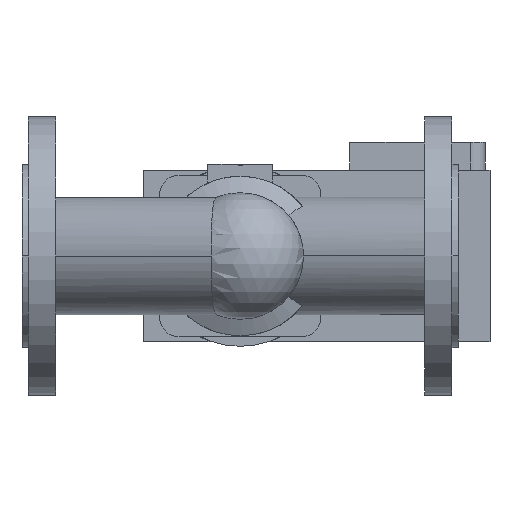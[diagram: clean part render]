
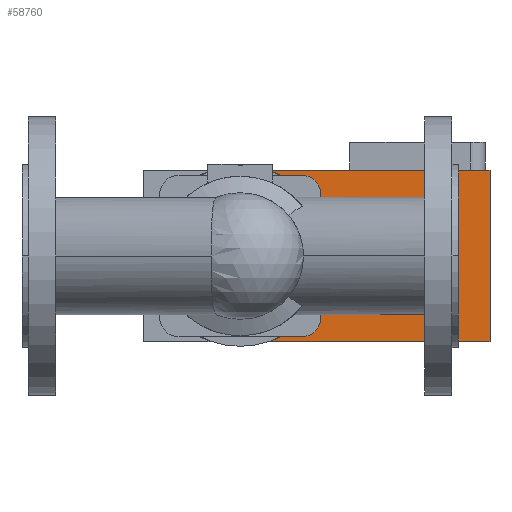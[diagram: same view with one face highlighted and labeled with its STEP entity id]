
A CAD part, front view. The second image highlights one B-rep face of the part: STEP entity #58760.
In plain terms, the highlighted planar face has unit normal (0, -1, 0).
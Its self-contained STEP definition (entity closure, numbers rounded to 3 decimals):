
#55230=CARTESIAN_POINT('',(-28.5,228.,32.));
#55240=DIRECTION('',(0.,1.,-0.));
#55250=DIRECTION('',(-1.,0.,0.));
#55260=AXIS2_PLACEMENT_3D('',#55230,#55240,#55250);
#55270=PLANE('',#55260);
#55280=CARTESIAN_POINT('',(-64.,228.,-25.));
#55290=DIRECTION('',(1.,0.,0.));
#55300=VECTOR('',#55290,1.);
#55310=LINE('',#55280,#55300);
#55460=CARTESIAN_POINT('',(-64.,228.,89.));
#55470=DIRECTION('',(1.,0.,0.));
#55480=VECTOR('',#55470,1.);
#55490=LINE('',#55460,#55480);
#55540=CARTESIAN_POINT('',(0.,228.,32.));
#55550=DIRECTION('',(0.,-1.,0.));
#55560=DIRECTION('',(-1.,0.,0.));
#55570=AXIS2_PLACEMENT_3D('',#55540,#55550,#55560);
#55580=CIRCLE('',#55570,60.);
#55770=CARTESIAN_POINT('',(18.735,228.,-25.));
#55780=VERTEX_POINT('',#55770);
#55830=CARTESIAN_POINT('',(166.,228.,-25.));
#55840=VERTEX_POINT('',#55830);
#55850=EDGE_CURVE('',#55780,#55840,#55310,.T.);
#57150=CARTESIAN_POINT('',(166.,228.,89.));
#57160=VERTEX_POINT('',#57150);
#57190=CARTESIAN_POINT('',(18.735,228.,89.));
#57200=VERTEX_POINT('',#57190);
#57210=EDGE_CURVE('',#57200,#57160,#55490,.T.);
#58490=CARTESIAN_POINT('',(60.,228.,32.));
#58500=VERTEX_POINT('',#58490);
#58530=EDGE_CURVE('',#55780,#58500,#55580,.T.);
#58630=ORIENTED_EDGE('',*,*,#57210,.F.);
#58640=CARTESIAN_POINT('',(166.,228.,32.));
#58650=DIRECTION('',(0.,0.,-1.));
#58660=VECTOR('',#58650,1.);
#58670=LINE('',#58640,#58660);
#58680=EDGE_CURVE('',#57160,#55840,#58670,.T.);
#58690=ORIENTED_EDGE('',*,*,#58680,.F.);
#58700=ORIENTED_EDGE('',*,*,#55850,.T.);
#58710=ORIENTED_EDGE('',*,*,#58530,.F.);
#58720=EDGE_CURVE('',#58500,#57200,#55580,.T.);
#58730=ORIENTED_EDGE('',*,*,#58720,.F.);
#58740=EDGE_LOOP('',(#58730,#58710,#58700,#58690,#58630));
#58750=FACE_OUTER_BOUND('',#58740,.T.);
#58760=ADVANCED_FACE('',(#58750),#55270,.F.);
